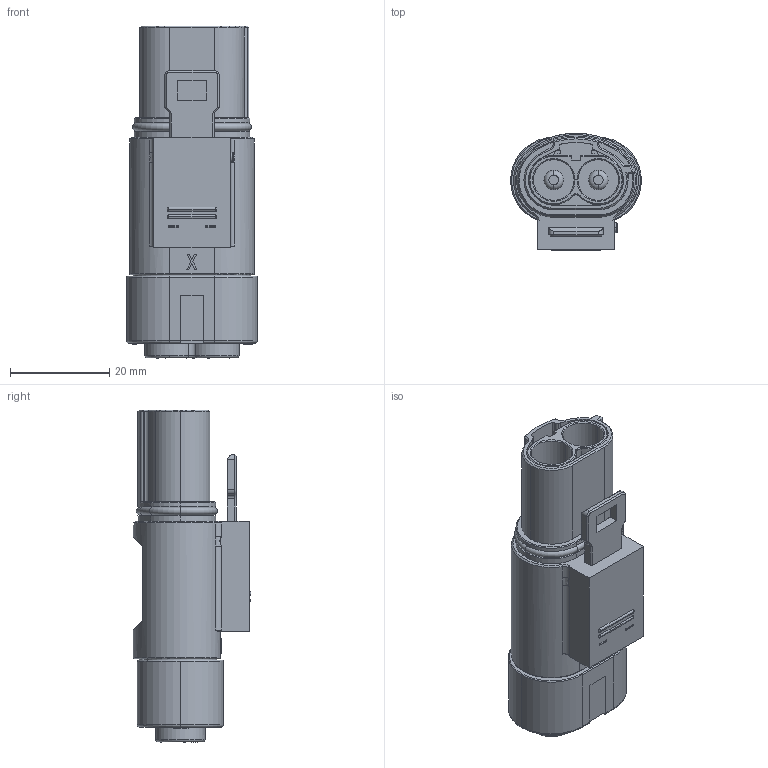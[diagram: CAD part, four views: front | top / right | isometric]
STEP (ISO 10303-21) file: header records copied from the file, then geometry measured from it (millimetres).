
FILE_DESCRIPTION (( 'STEP AP214' ), '1' );
FILE_NAME ('PL182X-61-2.5B.STEP', '2021-01-20T07:10:32', ( '' ), ( '' ), 'SwSTEP 2.0', 'SolidWorks 2018', '' );
FILE_SCHEMA (( 'AUTOMOTIVE_DESIGN' ));
Length unit declared in the file: millimetre
Products named in the file (1): PL182X-61-2.5B
Bounding box: 26.4 x 23.71 x 67 mm (x, y, z)
Volume: 22188.1 mm3; surface area: 8579.3 mm2
Topology: 1 solids, 1 shells, 416 faces, 1067 edges, 684 vertices
Faces by surface type: plane 186, cylinder 138, torus 43, cone 42, bspline 7
Entity records: 17753 total; most frequent: CARTESIAN_POINT 3426, DIRECTION 2170, ORIENTED_EDGE 2134, EDGE_CURVE 1067, AXIS2_PLACEMENT_3D 784, VERTEX_POINT 684, LINE 602, VECTOR 602
